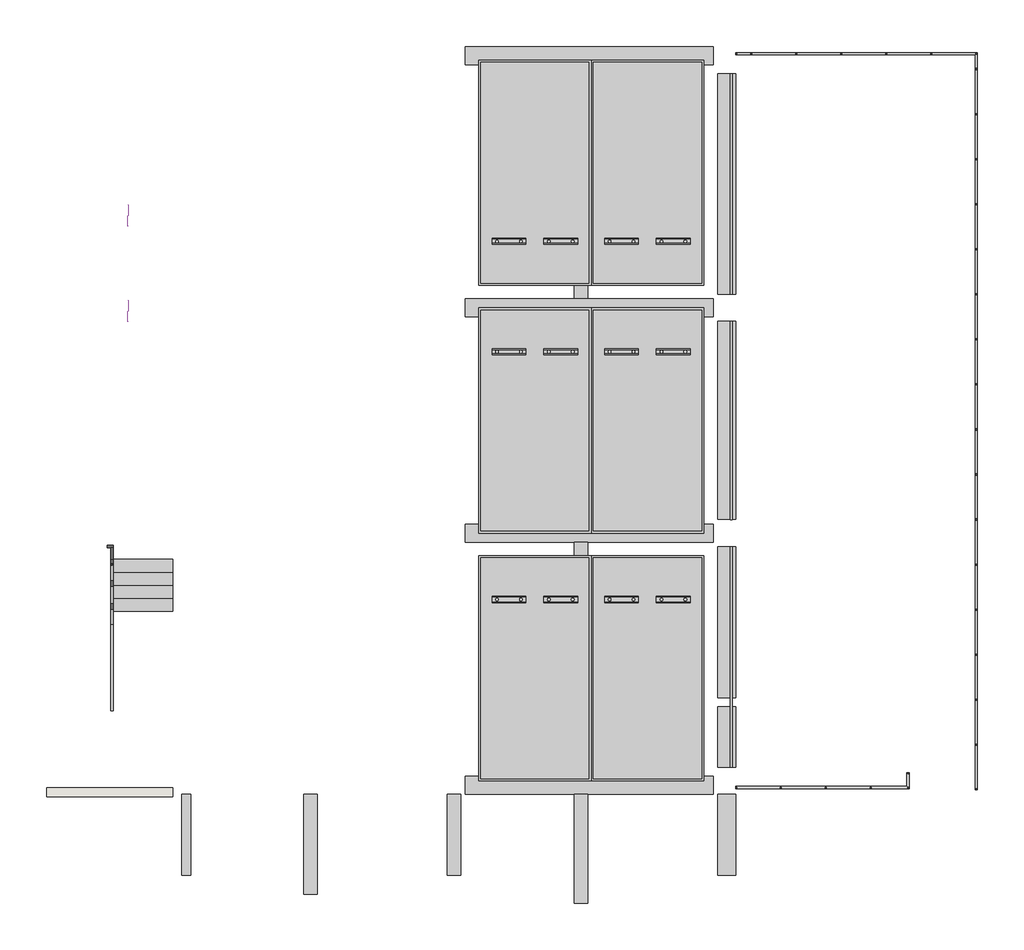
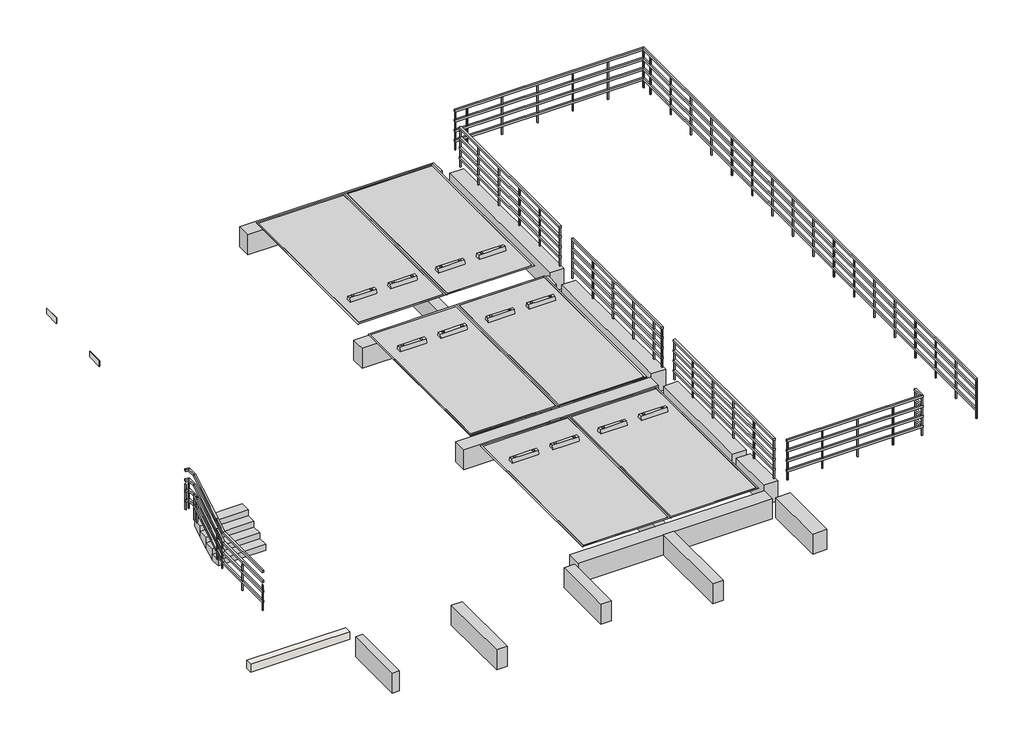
# One storey: 15 beams, 6 proxies, 6 railings, 3 walls, 1 stair flight.
"""IFC4 building model written with IfcOpenShell, lengths in millimetres."""

from ifc_helpers import new_model, si_unit, frame, origin, place, context, project, spatial, polyline, outline, extrude, faceted_brep, transform, mapped, element, save
from components import parking_7176ef04, parking_aa608fea, railing_45e0a353, railing_322e9031, railing_281d54a7, railing_9e2b65a3, railing_6d27c915, railing_fc631ef0

model = new_model("IFC4")

# Units and contexts
model_context = context("Model", 3, world=origin())
ifc_project = project(units=[si_unit("LENGTHUNIT", "METRE", prefix="MILLI")], contexts=[model_context])

# Site, building, storey
site = spatial("IfcSite", under=ifc_project)
building = spatial("IfcBuilding", under=site)
storey = spatial("IfcBuildingStorey", under=building, Name="G.L", Elevation=-150.0)

# Beams
placement = place(None, origin())
element("IfcBeam", 1, ObjectType="BM100-구조 보 : BM100-구조 보 300x600", at=placement, inside=storey, context=model_context, shape_type="SweptSolid", body=[
    extrude(outline(polyline([(5963.2625647, -2512.7), (5663.2625647, -2512.7), (5663.2625647, -300.0), (5963.2625647, -300.0), (5963.2625647, -2512.7)])), frame((0.0, 0.0, -850.0), z_axis=(0.0, 0.0, 1.0), x_axis=(1.0, 0.0, 0.0)), (0.0, 0.0, 1.0), 600.0),
])
element("IfcBeam", 2, ObjectType="BM100-구조 보 : BM100-구조 보 300x600", at=placement, inside=storey, context=model_context, shape_type="SweptSolid", body=[
    extrude(outline(polyline([(3150.0, -2100.0), (2950.0, -2100.0), (2950.0, -300.0), (3150.0, -300.0), (3150.0, -2100.0)])), frame((0.0, 0.0, -850.0), z_axis=(0.0, 0.0, 1.0), x_axis=(1.0, 0.0, 0.0)), (0.0, 0.0, 1.0), 600.0),
])
element("IfcBeam", 3, ObjectType="BM100-구조 보 : BM100-구조 보 400x600", at=placement, inside=storey, context=model_context, shape_type="SweptSolid", body=[
    extrude(outline(polyline([(14750.0, 100.0), (14750.0, -300.0), (9250.0, -300.0), (9250.0, 100.0), (14750.0, 100.0)])), frame((0.0, 0.0, -850.0), z_axis=(0.0, 0.0, 1.0), x_axis=(1.0, 0.0, 0.0)), (0.0, 0.0, 1.0), 600.0),
])
element("IfcBeam", 4, ObjectType="BM100-구조 보 : BM100-구조 보 300x600", at=placement, inside=storey, context=model_context, shape_type="Brep", body=[
    faceted_brep([(8850.0, -2100.0, -250.0), (9150.0, -2100.0, -250.0), (9150.0, -300.0, -250.0), (9100.0, -300.0, -250.0), (8850.0, -300.0, -250.0), (8850.0, -2100.0, -850.0), (8850.0, -300.0, -850.0), (9150.0, -2100.0, -850.0), (9150.0, -300.0, -850.0)], [[[0, 1, 2, 3, 4]], [[5, 0, 4, 6]], [[7, 5, 6, 8]], [[1, 7, 8, 2]], [[1, 0, 5, 7]], [[4, 3, 2, 8, 6]]]),
])
element("IfcBeam", 5, ObjectType="BM100-구조 보 : BM100-구조 보 400x600", at=placement, inside=storey, context=model_context, shape_type="SweptSolid", body=[
    extrude(outline(polyline([(14850.0, -300.0), (15250.0, -300.0), (15250.0, -2100.0), (14850.0, -2100.0), (14850.0, -300.0)])), frame((0.0, 0.0, -850.0), z_axis=(0.0, 0.0, 1.0), x_axis=(1.0, 0.0, 0.0)), (0.0, 0.0, 1.0), 600.0),
])
element("IfcBeam", 6, ObjectType="BM100-구조 보 : BM100-구조 보 400x600", at=placement, inside=storey, context=model_context, shape_type="SweptSolid", body=[
    extrude(outline(polyline([(14750.0, 5700.0), (14750.0, 5300.0), (9250.0, 5300.0), (9250.0, 5700.0), (14750.0, 5700.0)])), frame((0.0, 0.0, -850.0), z_axis=(0.0, 0.0, 1.0), x_axis=(1.0, 0.0, 0.0)), (0.0, 0.0, 1.0), 600.0),
])
element("IfcBeam", 7, ObjectType="BM100-구조 보 : BM100-구조 보 400x600", at=placement, inside=storey, context=model_context, shape_type="Brep", body=[
    faceted_brep([(14750.0, 10300.0, -250.0), (14750.0, 10700.0, -250.0), (11963.2625647, 10700.0, -250.0), (11663.2625647, 10700.0, -250.0), (9250.0, 10700.0, -250.0), (9250.0, 10500.0, -250.0), (9250.0, 10300.0, -250.0), (14750.0, 10300.0, -850.0), (9250.0, 10300.0, -850.0), (14750.0, 10700.0, -850.0), (9250.0, 10700.0, -850.0), (11663.2625647, 10700.0, -850.0), (11963.2625647, 10700.0, -850.0)], [[[0, 1, 2, 3, 4, 5, 6]], [[7, 0, 6, 8]], [[9, 7, 8, 10, 11, 12]], [[1, 9, 12, 11, 10, 4, 3, 2]], [[1, 0, 7, 9]], [[6, 5, 4, 10, 8]]]),
])
element("IfcBeam", 8, ObjectType="BM100-구조 보 : BM100-구조 보 400x600", at=placement, inside=storey, context=model_context, shape_type="Brep", body=[
    faceted_brep([(14750.0, 15900.0, -250.0), (14750.0, 16300.0, -250.0), (9250.0, 16300.0, -250.0), (9250.0, 15900.0, -250.0), (11663.2625647, 15900.0, -250.0), (11963.2625647, 15900.0, -250.0), (14750.0, 15900.0, -850.0), (9250.0, 15900.0, -850.0), (11663.2625647, 15900.0, -850.0), (11963.2625647, 15900.0, -850.0), (14750.0, 16300.0, -850.0), (14750.0, 16100.0, -850.0), (9250.0, 16100.0, -850.0), (9250.0, 16300.0, -850.0)], [[[0, 1, 2, 3, 4, 5]], [[6, 0, 5, 4, 3, 7, 8, 9]], [[10, 11, 6, 9, 8, 7, 12, 13]], [[1, 10, 13, 2]], [[1, 0, 6, 11, 10]], [[3, 2, 13, 12, 7]]]),
])
element("IfcBeam", 9, ObjectType="BM100-구조 보 : BM100-구조 보 400x600", at=placement, inside=storey, context=model_context, shape_type="Brep", body=[
    faceted_brep([(14850.0, 5802.1275994, -250.0), (15250.0, 5802.1275994, -250.0), (15250.0, 10200.0, -250.0), (14850.0, 10200.0, -250.0), (14850.0, 5802.1275994, -850.0), (14850.0, 10200.0, -850.0), (15250.0, 5802.1275994, -850.0), (15050.0, 10200.0, -850.0), (15250.0, 10200.0, -850.0)], [[[0, 1, 2, 3]], [[4, 0, 3, 5]], [[6, 4, 5, 7, 8]], [[1, 6, 8, 2]], [[1, 0, 4, 6]], [[3, 2, 8, 7, 5]]]),
])
element("IfcBeam", 10, ObjectType="BM100-구조 보 : BM100-구조 보 400x600", at=placement, inside=storey, context=model_context, shape_type="Brep", body=[
    faceted_brep([(15250.0, 5200.0, -250.0), (14850.0, 5200.0, -250.0), (14850.0, 1840.0, -250.0), (15250.0, 1840.0, -250.0), (14850.0, 5200.0, -850.0), (14850.0, 1840.0, -850.0), (15050.0, 5200.0, -850.0), (15250.0, 5200.0, -850.0), (15250.0, 1840.0, -850.0), (15050.0, 1840.0, -850.0)], [[[0, 1, 2, 3]], [[1, 4, 5, 2]], [[4, 6, 7, 8, 9, 5]], [[7, 0, 3, 8]], [[3, 2, 5, 9, 8]], [[0, 7, 6, 4, 1]]]),
    faceted_brep([(14850.0, 1640.0, -250.0), (15250.0, 1640.0, -250.0), (15250.0, 1640.0, -850.0), (14850.0, 1640.0, -850.0), (15250.0, 300.0, -250.0), (14850.0, 300.0, -250.0), (14850.0, 300.0, -850.0), (15250.0, 300.0, -850.0)], [[[0, 1, 2, 3]], [[4, 5, 6, 7]], [[7, 6, 3, 2]], [[5, 4, 1, 0]], [[6, 5, 0, 3]], [[4, 7, 2, 1]]]),
])
element("IfcBeam", 11, ObjectType="BM100-구조 보 : BM100-구조 보 300x600", at=placement, inside=storey, context=model_context, shape_type="SweptSolid", body=[
    extrude(outline(polyline([(11963.2625647, -2712.7), (11663.2625647, -2712.7), (11663.2625647, -300.0), (11963.2625647, -300.0), (11963.2625647, -2712.7)])), frame((0.0, 0.0, -850.0), z_axis=(0.0, 0.0, 1.0), x_axis=(1.0, 0.0, 0.0)), (0.0, 0.0, 1.0), 600.0),
])
element("IfcBeam", 12, ObjectType="BM100-구조 보 : BM100-구조 보 300x600", at=placement, inside=storey, context=model_context, shape_type="SweptSolid", body=[
    extrude(outline(polyline([(11663.2625647, 5300.0), (11963.2625647, 5300.0), (11963.2625647, 100.0), (11663.2625647, 100.0), (11663.2625647, 5300.0)])), frame((0.0, 0.0, -850.0), z_axis=(0.0, 0.0, 1.0), x_axis=(1.0, 0.0, 0.0)), (0.0, 0.0, 1.0), 600.0),
])
element("IfcBeam", 13, ObjectType="BM100-구조 보 : BM100-구조 보 300x600", at=placement, inside=storey, context=model_context, shape_type="SweptSolid", body=[
    extrude(outline(polyline([(11963.2625647, 5700.0), (11663.2625647, 5700.0), (11663.2625647, 10300.0), (11963.2625647, 10300.0), (11963.2625647, 5700.0)])), frame((0.0, 0.0, -850.0), z_axis=(0.0, 0.0, 1.0), x_axis=(1.0, 0.0, 0.0)), (0.0, 0.0, 1.0), 600.0),
])
element("IfcBeam", 14, ObjectType="BM100-구조 보 : BM100-구조 보 300x600", at=placement, inside=storey, context=model_context, shape_type="SweptSolid", body=[
    extrude(outline(polyline([(11963.2625647, 10700.0), (11663.2625647, 10700.0), (11663.2625647, 15900.0), (11963.2625647, 15900.0), (11963.2625647, 10700.0)])), frame((0.0, 0.0, -850.0), z_axis=(0.0, 0.0, 1.0), x_axis=(1.0, 0.0, 0.0)), (0.0, 0.0, 1.0), 600.0),
])
element("IfcBeam", 15, ObjectType="BM100-구조 보 : BM100-구조 보 400x600", at=placement, inside=storey, context=model_context, shape_type="Brep", body=[
    faceted_brep([(14850.0, 10800.0, -250.0), (15250.0, 10800.0, -250.0), (15250.0, 15700.0, -250.0), (14850.0, 15700.0, -250.0), (14850.0, 10800.0, -850.0), (14850.0, 15700.0, -850.0), (15250.0, 10800.0, -850.0), (15050.0, 10800.0, -850.0), (15050.0, 15700.0, -850.0), (15250.0, 15700.0, -850.0)], [[[0, 1, 2, 3]], [[4, 0, 3, 5]], [[6, 7, 4, 5, 8, 9]], [[1, 6, 9, 2]], [[1, 0, 4, 7, 6]], [[3, 2, 9, 8, 5]]]),
])

# Proxies
parking_shape = parking_7176ef04(model_context)
element("IfcBuildingElementProxy", 16, Name="XX171-주차선 표기(일반용) : XX171-주차선 표기(일반용)_라인(2.5X5.0)", ObjectType="XX171-주차선 표기(일반용) : XX171-주차선 표기(일반용)_라인(2.5X5.0)", at=placement, inside=storey, context=model_context, shape_type="MappedRepresentation", body=[
    mapped(parking_shape, transform((10790.0, 8000.0, -50.0), x_axis=(0.0, -1.0, 0.0), y_axis=(1.0, 0.0, 0.0), z_axis=(0.0, 0.0, 1.0))),
])
element("IfcBuildingElementProxy", 17, Name="XX171-주차선 표기(일반용) : XX171-주차선 표기(일반용)_라인(2.5X5.0)", ObjectType="XX171-주차선 표기(일반용) : XX171-주차선 표기(일반용)_라인(2.5X5.0)", at=placement, inside=storey, context=model_context, shape_type="MappedRepresentation", body=[
    mapped(parking_shape, transform((13290.0, 8000.0, -50.0), x_axis=(0.0, -1.0, 0.0), y_axis=(1.0, 0.0, 0.0), z_axis=(0.0, 0.0, 1.0))),
])
element("IfcBuildingElementProxy", 18, Name="XX171-주차선 표기(일반용) : XX171-주차선 표기(일반용)_라인(2.5X5.0)", ObjectType="XX171-주차선 표기(일반용) : XX171-주차선 표기(일반용)_라인(2.5X5.0)", at=placement, inside=storey, context=model_context, shape_type="MappedRepresentation", body=[
    mapped(parking_shape, transform((10790.0, 2500.0, -50.0), x_axis=(0.0, -1.0, 0.0), y_axis=(1.0, 0.0, 0.0), z_axis=(0.0, 0.0, 1.0))),
])
element("IfcBuildingElementProxy", 19, Name="XX171-주차선 표기(일반용) : XX171-주차선 표기(일반용)_라인(2.5X5.0)", ObjectType="XX171-주차선 표기(일반용) : XX171-주차선 표기(일반용)_라인(2.5X5.0)", at=placement, inside=storey, context=model_context, shape_type="MappedRepresentation", body=[
    mapped(parking_shape, transform((13290.0, 2500.0, -50.0), x_axis=(0.0, -1.0, 0.0), y_axis=(1.0, 0.0, 0.0), z_axis=(0.0, 0.0, 1.0))),
])
parking_2_shape = parking_aa608fea(model_context)
element("IfcBuildingElementProxy", 20, Name="XX171-주차선 표기(일반용) : XX171-주차선 표기(일반용)_라인(2.5X5.0)", ObjectType="XX171-주차선 표기(일반용) : XX171-주차선 표기(일반용)_라인(2.5X5.0)", at=placement, inside=storey, context=model_context, shape_type="MappedRepresentation", body=[
    mapped(parking_2_shape, transform((10790.0, 13500.0, -50.0), x_axis=(0.0, 1.0, 0.0), y_axis=(-1.0, 0.0, 0.0), z_axis=(0.0, 0.0, 1.0))),
])
element("IfcBuildingElementProxy", 21, Name="XX171-주차선 표기(일반용) : XX171-주차선 표기(일반용)_라인(2.5X5.0)", ObjectType="XX171-주차선 표기(일반용) : XX171-주차선 표기(일반용)_라인(2.5X5.0)", at=placement, inside=storey, context=model_context, shape_type="MappedRepresentation", body=[
    mapped(parking_2_shape, transform((13290.0, 13500.0, -50.0), x_axis=(0.0, 1.0, 0.0), y_axis=(-1.0, 0.0, 0.0), z_axis=(0.0, 0.0, 1.0))),
])

# Railings
railing_shape = railing_45e0a353(model_context)
element("IfcRailing", 22, ObjectType="RL780-금속재 난간", at=placement, inside=storey, context=model_context, shape_type="MappedRepresentation", body=[
    mapped(railing_shape, transform((0.0, 0.0, 0.0), x_axis=(1.0, 0.0, 0.0), y_axis=(0.0, 1.0, 0.0), z_axis=(0.0, 0.0, 1.0))),
])
railing_2_shape = railing_322e9031(model_context)
element("IfcRailing", 23, ObjectType="RL780-금속재 난간", at=placement, inside=storey, context=model_context, shape_type="MappedRepresentation", body=[
    mapped(railing_2_shape, transform((0.0, 0.0, 0.0), x_axis=(1.0, 0.0, 0.0), y_axis=(0.0, 1.0, 0.0), z_axis=(0.0, 0.0, 1.0))),
])
railing_3_shape = railing_281d54a7(model_context)
element("IfcRailing", 24, ObjectType="RL780-금속재 난간", at=placement, inside=storey, context=model_context, shape_type="MappedRepresentation", body=[
    mapped(railing_3_shape, transform((0.0, 0.0, 0.0), x_axis=(1.0, 0.0, 0.0), y_axis=(0.0, 1.0, 0.0), z_axis=(0.0, 0.0, 1.0))),
])
railing_4_shape = railing_9e2b65a3(model_context)
element("IfcRailing", 25, ObjectType="RL780-금속재 난간", at=placement, inside=storey, context=model_context, shape_type="MappedRepresentation", body=[
    mapped(railing_4_shape, transform((0.0, 0.0, 0.0), x_axis=(1.0, 0.0, 0.0), y_axis=(0.0, 1.0, 0.0), z_axis=(0.0, 0.0, 1.0))),
])
railing_5_shape = railing_6d27c915(model_context)
element("IfcRailing", 26, ObjectType="RL780-금속재 난간", at=placement, inside=storey, context=model_context, shape_type="MappedRepresentation", body=[
    mapped(railing_5_shape, transform((0.0, 0.0, 0.0), x_axis=(1.0, 0.0, 0.0), y_axis=(0.0, 1.0, 0.0), z_axis=(0.0, 0.0, 1.0))),
])
railing_6_shape = railing_fc631ef0(model_context)
element("IfcRailing", 27, ObjectType="RL780-금속재 난간", at=placement, inside=storey, context=model_context, shape_type="MappedRepresentation", body=[
    mapped(railing_6_shape, transform((0.0, 0.0, 0.0), x_axis=(1.0, 0.0, 0.0), y_axis=(0.0, 1.0, 0.0), z_axis=(0.0, 0.0, 1.0))),
])

# Stair flight
element("IfcStairFlight", 28, ObjectType="일체형 계단진행 150mm_철근콘크리트", at=placement, inside=storey, context=model_context, shape_type="Brep", body=[
    faceted_brep([(1400.2430136, 4050.0, 120.0), (1400.2430136, 3760.0, 120.0), (2750.0, 3760.0, 120.0), (2750.0, 4050.0, 120.0), (1400.2430136, 4050.0, -50.0), (1400.2430136, 3760.0, -50.0), (2750.0, 3760.0, -50.0), (2750.0, 4050.0, -50.0), (1400.2430136, 4340.0, 290.0), (1400.2430136, 4050.0, 290.0), (2750.0, 4050.0, 290.0), (2750.0, 4340.0, 290.0), (1400.2430136, 4340.0, 116.1268657), (1400.2430136, 4056.6071114, -50.0), (2750.0, 4056.6071114, -50.0), (2750.0, 4340.0, 116.1268657), (1400.2430136, 4630.0, 460.0), (1400.2430136, 4340.0, 460.0), (2750.0, 4340.0, 460.0), (2750.0, 4630.0, 460.0), (1400.2430136, 4630.0, 286.1268657), (2750.0, 4630.0, 286.1268657), (1400.2430136, 4920.0, 630.0), (1400.2430136, 4630.0, 630.0), (2750.0, 4630.0, 630.0), (2750.0, 4920.0, 630.0), (1400.2430136, 4920.0, 456.1268657), (2750.0, 4920.0, 456.1268657)], [[[0, 1, 2, 3]], [[1, 0, 4, 5]], [[2, 1, 5, 6]], [[3, 2, 6, 7]], [[8, 9, 10, 11]], [[4, 0, 9, 8, 12, 13]], [[0, 3, 10, 9]], [[3, 7, 14, 15, 11, 10]], [[16, 17, 18, 19]], [[17, 16, 20, 12, 8]], [[8, 11, 18, 17]], [[19, 18, 11, 15, 21]], [[22, 23, 24, 25]], [[23, 22, 26, 20, 16]], [[16, 19, 24, 23]], [[25, 24, 19, 21, 27]], [[22, 25, 27, 26]], [[5, 4, 13, 14, 7, 6]], [[14, 13, 12, 20, 26, 27, 21, 15]]]),
])

# Walls
element("IfcWall", 29, ObjectType="A-두겁석-T10", at=placement, inside=storey, context=model_context, shape_type="SweptSolid", body=[
    extrude(outline(polyline([(1760.0, 10662.7770914), (1760.0, 10187.7770914), (1750.0, 10187.7770914), (1750.0, 10662.7770914), (1760.0, 10662.7770914)])), frame((0.0, 0.0, 1900.0), z_axis=(0.0, 0.0, 1.0), x_axis=(1.0, 0.0, 0.0)), (0.0, 0.0, 1.0), 170.0),
])
element("IfcWall", 30, ObjectType="A-두겁석-T10", at=placement, inside=storey, context=model_context, shape_type="SweptSolid", body=[
    extrude(outline(polyline([(1760.0, 12782.7770914), (1760.0, 12307.7770914), (1750.0, 12307.7770914), (1750.0, 12782.7770914), (1760.0, 12782.7770914)])), frame((0.0, 0.0, 1900.0), z_axis=(0.0, 0.0, 1.0), x_axis=(1.0, 0.0, 0.0)), (0.0, 0.0, 1.0), 170.0),
])
element("IfcWall", 31, ObjectType="WA100-구조 벽 200", at=placement, inside=storey, context=model_context, shape_type="SweptSolid", body=[
    extrude(outline(polyline([(2749.5, -350.0), (-50.0, -350.0), (-50.0, -150.0), (2749.5, -150.0), (2749.5, -350.0)])), frame((0.0, 0.0, -228.6447326), z_axis=(0.0, 0.0, 1.0), x_axis=(1.0, 0.0, 0.0)), (0.0, 0.0, 1.0), 228.6447326),
])

save(model, "model.ifc")
